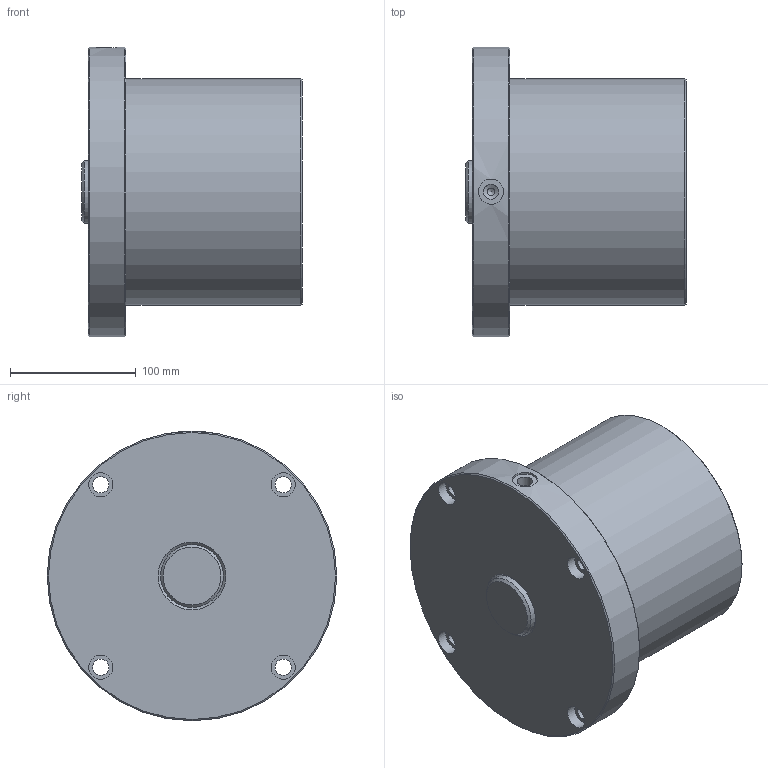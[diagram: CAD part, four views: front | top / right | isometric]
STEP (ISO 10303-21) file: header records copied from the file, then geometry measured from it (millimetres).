
FILE_DESCRIPTION( ( 'Unknown' ), '1' );
FILE_NAME( 'F:/JAKOB-STEP+IGES-Dateien/STEP-Dateien/ZDF/ZDFo 25000.stp', 'Unknown', ( 'Unknown' ), ( 'Unknown' ), 'XStep 1.0', 'Unknown', ' ' );
FILE_SCHEMA( ( 'CONFIG_CONTROL_DESIGN' ) );
Length unit declared in the file: millimetre
Products named in the file (1): 1
Bounding box: 175 x 230 x 230 mm (x, y, z)
Volume: 4792510.8 mm3; surface area: 189776.7 mm2
Topology: 1 solids, 1 shells, 30 faces, 62 edges, 40 vertices
Faces by surface type: cylinder 14, plane 9, cone 7
Full cylindrical faces by diameter (mm): 6 x1, 12 x1, 13 x4, 19 x4, 20 x1, 50 x1, 180 x1, 230 x1
Entity records: 785 total; most frequent: CARTESIAN_POINT 188, DIRECTION 126, EDGE_LOOP 66, ORIENTED_EDGE 66, AXIS2_PLACEMENT_3D 63, FACE_OUTER_BOUND 44, VERTEX_POINT 34, EDGE_CURVE 33
